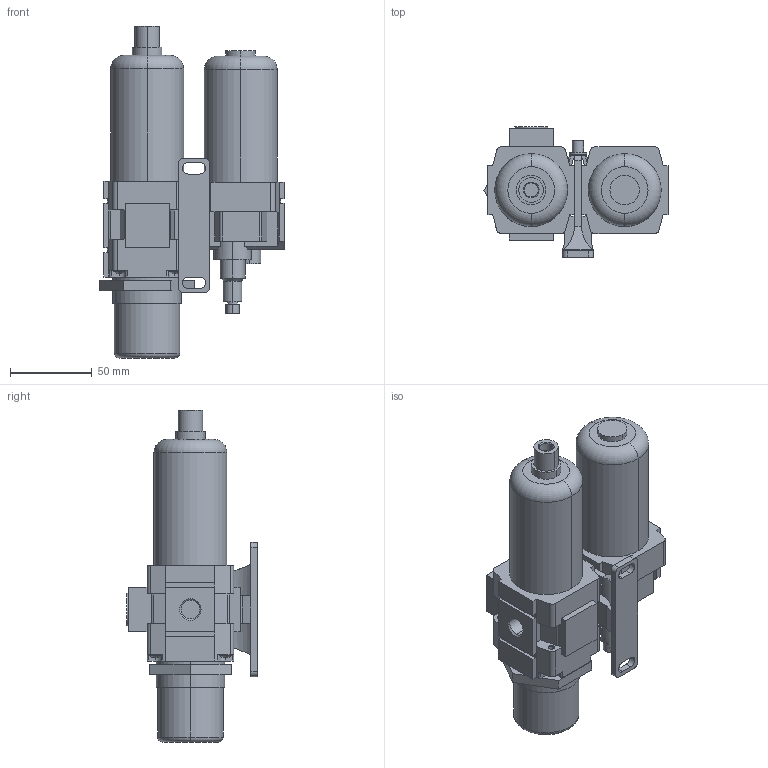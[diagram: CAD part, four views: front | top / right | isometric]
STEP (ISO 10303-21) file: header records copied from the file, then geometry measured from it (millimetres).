
FILE_DESCRIPTION (( 'STEP AP203' ), '1' );
FILE_NAME ('FRL300-02E-D.STEP', '2021-06-30T20:11:22', ( '' ), ( '' ), 'SwSTEP 2.0', 'SolidWorks 2019', '' );
FILE_SCHEMA (( 'CONFIG_CONTROL_DESIGN' ));
Length unit declared in the file: millimetre
Products named in the file (4): FR300-02E-D; ST-03; FRL300-02E-D; L300-02
Assembly tree (3 placements, depth 2):
  FRL300-02E-D
    FR300-02E-D
    ST-03
    L300-02
Bounding box: 112.57 x 80 x 203 mm (x, y, z)
Volume: 576464.4 mm3; surface area: 89778.1 mm2
Topology: 12 solids, 12 shells, 554 faces, 1395 edges, 908 vertices
Faces by surface type: plane 366, cylinder 144, cone 30, sphere 8, torus 6
Entity records: 17069 total; most frequent: CARTESIAN_POINT 2989, DIRECTION 2903, ORIENTED_EDGE 2790, EDGE_CURVE 1395, LINE 987, VECTOR 987, AXIS2_PLACEMENT_3D 958, VERTEX_POINT 908
